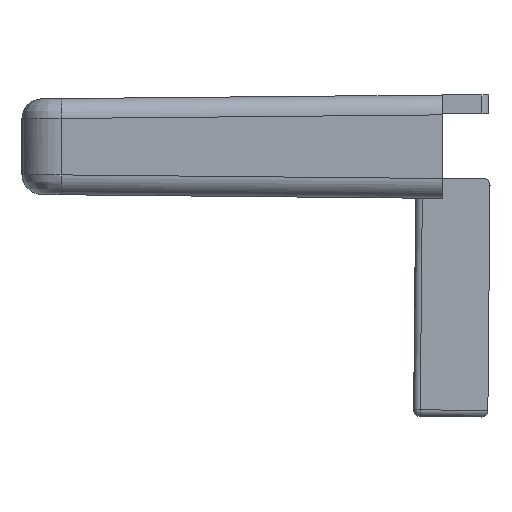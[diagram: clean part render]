
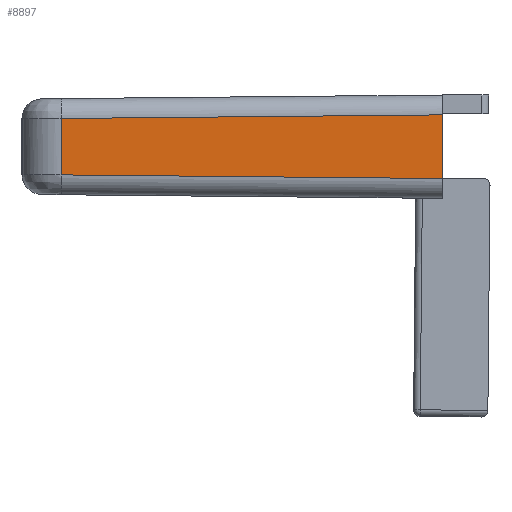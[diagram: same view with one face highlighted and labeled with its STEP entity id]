
A CAD part, left-side view. The second image highlights one B-rep face of the part: STEP entity #8897.
In plain terms, the highlighted planar face has unit normal (-1, 0.018, 0).
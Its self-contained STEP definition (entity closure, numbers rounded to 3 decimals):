
#388 = VECTOR ( 'NONE', #1547, 1000. ) ;
#421 = EDGE_CURVE ( 'NONE', #8608, #10180, #1176, .T. ) ;
#614 = CARTESIAN_POINT ( 'NONE',  ( 0., 0., -1.2 ) ) ;
#1176 = LINE ( 'NONE', #11935, #6101 ) ;
#1404 = DIRECTION ( 'NONE',  ( -0.017, -1., -0.009 ) ) ;
#1542 = ORIENTED_EDGE ( 'NONE', *, *, #7685, .T. ) ;
#1547 = DIRECTION ( 'NONE',  ( 0.017, 1., -0.009 ) ) ;
#1712 = DIRECTION ( 'NONE',  ( -1., 0.017, 0. ) ) ;
#2642 = ORIENTED_EDGE ( 'NONE', *, *, #5408, .T. ) ;
#2688 = LINE ( 'NONE', #3519, #388 ) ;
#3519 = CARTESIAN_POINT ( 'NONE',  ( 0.251, 14.369, 1.064 ) ) ;
#3665 = PLANE ( 'NONE',  #6702 ) ;
#3782 = FACE_OUTER_BOUND ( 'NONE', #5074, .T. ) ;
#4038 = VERTEX_POINT ( 'NONE', #4853 ) ;
#4102 = DIRECTION ( 'NONE',  ( 0., 0., -1. ) ) ;
#4853 = CARTESIAN_POINT ( 'NONE',  ( 0.251, 14.376, 1.064 ) ) ;
#5074 = EDGE_LOOP ( 'NONE', ( #11078, #10090, #1542, #2642 ) ) ;
#5123 = CARTESIAN_POINT ( 'NONE',  ( 0.251, 14.376, -1.8 ) ) ;
#5408 = EDGE_CURVE ( 'NONE', #5501, #10180, #10020, .T. ) ;
#5501 = VERTEX_POINT ( 'NONE', #11498 ) ;
#6101 = VECTOR ( 'NONE', #4102, 1000. ) ;
#6702 = AXIS2_PLACEMENT_3D ( 'NONE', #7616, #1712, #8581 ) ;
#7616 = CARTESIAN_POINT ( 'NONE',  ( 0., 0., -1.95 ) ) ;
#7685 = EDGE_CURVE ( 'NONE', #4038, #5501, #11107, .T. ) ;
#8092 = CARTESIAN_POINT ( 'NONE',  ( 0., 0., 1.2 ) ) ;
#8313 = CARTESIAN_POINT ( 'NONE',  ( 0., -0.007, -1.2 ) ) ;
#8581 = DIRECTION ( 'NONE',  ( -0.017, -1., 0. ) ) ;
#8608 = VERTEX_POINT ( 'NONE', #8092 ) ;
#8828 = EDGE_CURVE ( 'NONE', #8608, #4038, #2688, .T. ) ;
#8897 = ADVANCED_FACE ( 'NONE', ( #3782 ), #3665, .T. ) ;
#9698 = VECTOR ( 'NONE', #1404, 1000. ) ;
#10020 = LINE ( 'NONE', #8313, #9698 ) ;
#10059 = DIRECTION ( 'NONE',  ( 0., 0., -1. ) ) ;
#10090 = ORIENTED_EDGE ( 'NONE', *, *, #8828, .T. ) ;
#10180 = VERTEX_POINT ( 'NONE', #614 ) ;
#10789 = VECTOR ( 'NONE', #10059, 1000. ) ;
#11078 = ORIENTED_EDGE ( 'NONE', *, *, #421, .F. ) ;
#11107 = LINE ( 'NONE', #5123, #10789 ) ;
#11498 = CARTESIAN_POINT ( 'NONE',  ( 0.251, 14.376, -1.064 ) ) ;
#11935 = CARTESIAN_POINT ( 'NONE',  ( 0., 0., -1.95 ) ) ;
